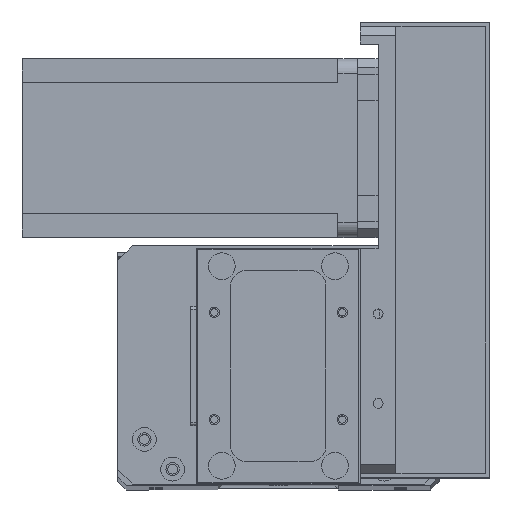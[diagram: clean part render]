
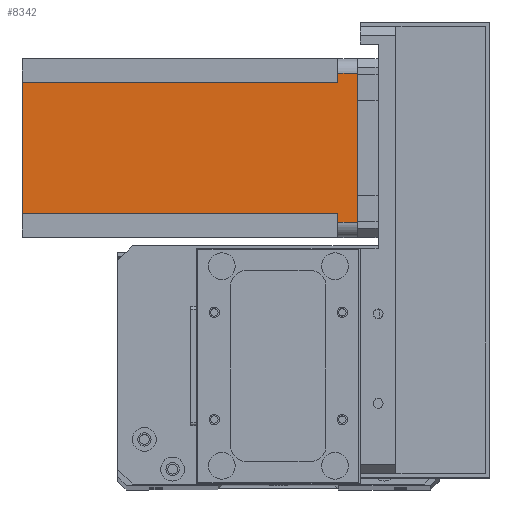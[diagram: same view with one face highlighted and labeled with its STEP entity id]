
A CAD part, top view. The second image highlights one B-rep face of the part: STEP entity #8342.
In plain terms, the highlighted planar face has unit normal (0, 0, 1) as drawn and (0, 1, 0) by its records, which use the part's own axes.
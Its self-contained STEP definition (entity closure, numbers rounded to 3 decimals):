
#174 = VECTOR ( 'NONE', #26210, 1000. ) ;
#438 = EDGE_CURVE ( 'NONE', #3525, #24749, #1739, .T. ) ;
#691 = ORIENTED_EDGE ( 'NONE', *, *, #12148, .F. ) ;
#737 = CARTESIAN_POINT ( 'NONE',  ( 5., 60., -112.5 ) ) ;
#1062 = VERTEX_POINT ( 'NONE', #3022 ) ;
#1458 = DIRECTION ( 'NONE',  ( -1., 0., 0. ) ) ;
#1739 = LINE ( 'NONE', #26113, #29585 ) ;
#2000 = CARTESIAN_POINT ( 'NONE',  ( 8., 60., -112.5 ) ) ;
#2213 = VERTEX_POINT ( 'NONE', #6414 ) ;
#2346 = EDGE_CURVE ( 'NONE', #24749, #1062, #9866, .T. ) ;
#2743 = CARTESIAN_POINT ( 'NONE',  ( 52., 60., -6.5 ) ) ;
#3022 = CARTESIAN_POINT ( 'NONE',  ( 55., 60., -6.5 ) ) ;
#3185 = LINE ( 'NONE', #10630, #27036 ) ;
#3355 = ORIENTED_EDGE ( 'NONE', *, *, #23044, .F. ) ;
#3414 = LINE ( 'NONE', #23747, #15735 ) ;
#3488 = VECTOR ( 'NONE', #25719, 1000. ) ;
#3514 = CARTESIAN_POINT ( 'NONE',  ( 8., 60., -112.5 ) ) ;
#3525 = VERTEX_POINT ( 'NONE', #19375 ) ;
#3887 = VECTOR ( 'NONE', #18158, 1000. ) ;
#4817 = VERTEX_POINT ( 'NONE', #20175 ) ;
#6137 = CARTESIAN_POINT ( 'NONE',  ( 52., 60., -6.5 ) ) ;
#6140 = DIRECTION ( 'NONE',  ( -1., 0., 0. ) ) ;
#6293 = LINE ( 'NONE', #737, #174 ) ;
#6359 = AXIS2_PLACEMENT_3D ( 'NONE', #7632, #9959, #26144 ) ;
#6414 = CARTESIAN_POINT ( 'NONE',  ( 5., 60., 0. ) ) ;
#7424 = ORIENTED_EDGE ( 'NONE', *, *, #2346, .F. ) ;
#7632 = CARTESIAN_POINT ( 'NONE',  ( 0., 60., -112.5 ) ) ;
#8084 = CARTESIAN_POINT ( 'NONE',  ( 5., 60., -6.5 ) ) ;
#8342 = ADVANCED_FACE ( 'NONE', ( #8428 ), #21494, .T. ) ;
#8428 = FACE_OUTER_BOUND ( 'NONE', #26085, .T. ) ;
#9301 = LINE ( 'NONE', #2000, #3887 ) ;
#9866 = LINE ( 'NONE', #6137, #22898 ) ;
#9943 = ORIENTED_EDGE ( 'NONE', *, *, #13338, .T. ) ;
#9959 = DIRECTION ( 'NONE',  ( 0., 1., 0. ) ) ;
#10630 = CARTESIAN_POINT ( 'NONE',  ( 0., 60., -112.5 ) ) ;
#10917 = EDGE_CURVE ( 'NONE', #3525, #27699, #3185, .T. ) ;
#12148 = EDGE_CURVE ( 'NONE', #22742, #27699, #9301, .T. ) ;
#12263 = DIRECTION ( 'NONE',  ( 0., 0., 1. ) ) ;
#12479 = ORIENTED_EDGE ( 'NONE', *, *, #16513, .T. ) ;
#13338 = EDGE_CURVE ( 'NONE', #22742, #21656, #23336, .T. ) ;
#15735 = VECTOR ( 'NONE', #26080, 1000. ) ;
#16513 = EDGE_CURVE ( 'NONE', #21656, #2213, #6293, .T. ) ;
#18158 = DIRECTION ( 'NONE',  ( 0., 0., -1. ) ) ;
#19375 = CARTESIAN_POINT ( 'NONE',  ( 52., 60., -112.5 ) ) ;
#20175 = CARTESIAN_POINT ( 'NONE',  ( 55., 60., 0. ) ) ;
#21494 = PLANE ( 'NONE',  #6359 ) ;
#21502 = ORIENTED_EDGE ( 'NONE', *, *, #10917, .T. ) ;
#21583 = ORIENTED_EDGE ( 'NONE', *, *, #28080, .T. ) ;
#21656 = VERTEX_POINT ( 'NONE', #8084 ) ;
#21929 = LINE ( 'NONE', #28053, #3488 ) ;
#22336 = CARTESIAN_POINT ( 'NONE',  ( 8., 60., -6.5 ) ) ;
#22666 = CARTESIAN_POINT ( 'NONE',  ( 8., 60., -6.5 ) ) ;
#22742 = VERTEX_POINT ( 'NONE', #22666 ) ;
#22898 = VECTOR ( 'NONE', #24635, 1000. ) ;
#23044 = EDGE_CURVE ( 'NONE', #4817, #2213, #3414, .T. ) ;
#23336 = LINE ( 'NONE', #22336, #28746 ) ;
#23747 = CARTESIAN_POINT ( 'NONE',  ( 0., 60., 0. ) ) ;
#24635 = DIRECTION ( 'NONE',  ( 1., 0., 0. ) ) ;
#24749 = VERTEX_POINT ( 'NONE', #2743 ) ;
#25719 = DIRECTION ( 'NONE',  ( 0., 0., -1. ) ) ;
#26080 = DIRECTION ( 'NONE',  ( -1., 0., 0. ) ) ;
#26085 = EDGE_LOOP ( 'NONE', ( #3355, #21583, #7424, #27897, #21502, #691, #9943, #12479 ) ) ;
#26113 = CARTESIAN_POINT ( 'NONE',  ( 52., 60., -112.5 ) ) ;
#26144 = DIRECTION ( 'NONE',  ( 0., 0., 1. ) ) ;
#26210 = DIRECTION ( 'NONE',  ( 0., 0., 1. ) ) ;
#27036 = VECTOR ( 'NONE', #1458, 1000. ) ;
#27699 = VERTEX_POINT ( 'NONE', #3514 ) ;
#27897 = ORIENTED_EDGE ( 'NONE', *, *, #438, .F. ) ;
#28053 = CARTESIAN_POINT ( 'NONE',  ( 55., 60., -112.5 ) ) ;
#28080 = EDGE_CURVE ( 'NONE', #4817, #1062, #21929, .T. ) ;
#28746 = VECTOR ( 'NONE', #6140, 1000. ) ;
#29585 = VECTOR ( 'NONE', #12263, 1000. ) ;
